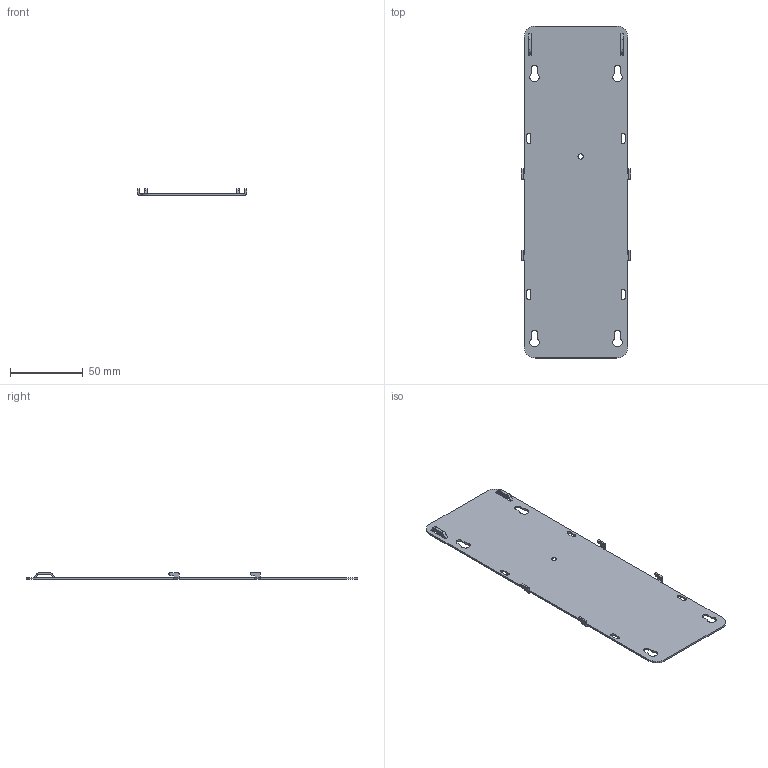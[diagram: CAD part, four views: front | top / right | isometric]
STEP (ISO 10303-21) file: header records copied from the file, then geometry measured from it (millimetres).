
FILE_DESCRIPTION((''),'2;1');
FILE_NAME('CU_PANEL_MOUNT_MYRIO','2013-08-13T',('jbuhisan'),(''),'PRO/ENGINEER BY PARAMETRIC TECHNOLOGY CORPORATION, 2011490','PRO/ENGINEER BY PARAMETRIC TECHNOLOGY CORPORATION, 2011490','');
FILE_SCHEMA(('CONFIG_CONTROL_DESIGN'));
Length unit declared in the file: inch
Products named in the file (1): CU_PANEL_MOUNT_MYRIO
Bounding box: 75.38 x 228.6 x 4.7 mm (x, y, z)
Volume: 19482.8 mm3; surface area: 33286.8 mm2
Topology: 1 solids, 1 shells, 184 faces, 478 edges, 292 vertices
Faces by surface type: plane 130, cylinder 52, cone 2
Entity records: 5602 total; most frequent: ORIENTED_EDGE 956, DIRECTION 954, CARTESIAN_POINT 954, EDGE_CURVE 478, VECTOR 370, LINE 370, AXIS2_PLACEMENT_3D 292, VERTEX_POINT 292
